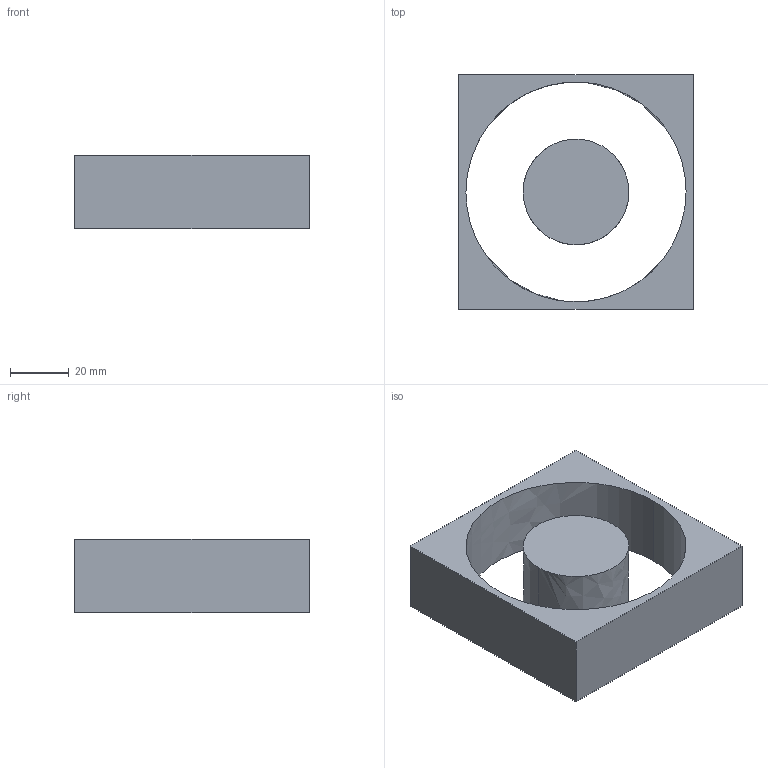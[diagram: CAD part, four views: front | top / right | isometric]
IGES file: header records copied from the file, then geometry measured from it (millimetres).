
Start section:  PTC IGES file: fan80.igs
Global section: file name: fan80.igs; native system: Pro/ENGINEER by Parametric Technology Corporation; preprocessor: 2010160; author: CV86875; organization: Unknown; date: 20121031.193938; units: millimetre
Bounding box: 80 x 80 x 25 mm (x, y, z)
Volume: 75000.4 mm3; surface area: 22717.9 mm2
Topology: 2 solids, 2 shells, 12 faces, 24 edges, 16 vertices
Faces by surface type: bspline 12
